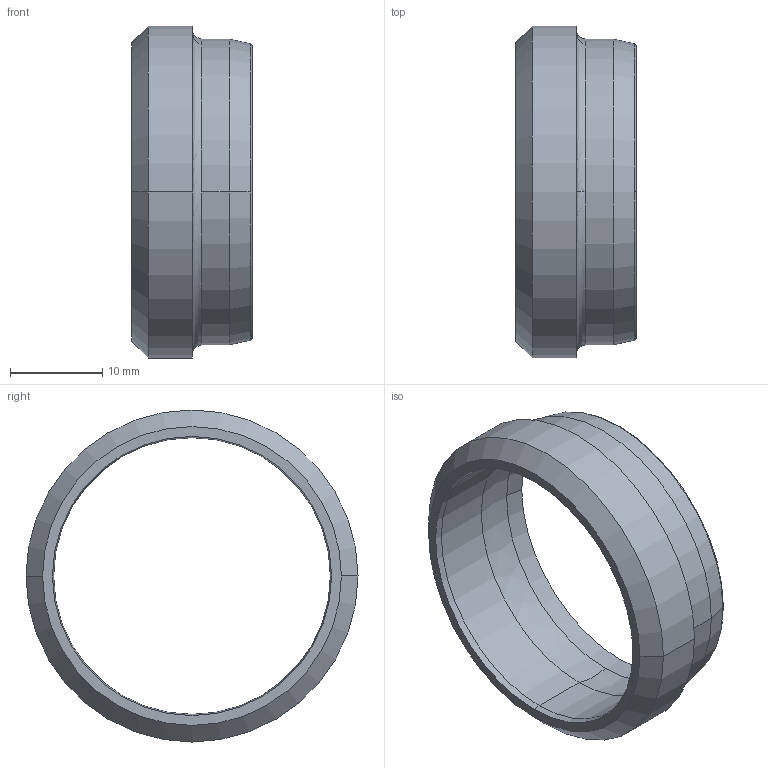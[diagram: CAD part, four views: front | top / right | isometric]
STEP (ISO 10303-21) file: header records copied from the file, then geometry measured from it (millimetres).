
FILE_DESCRIPTION((''),'2;1');
FILE_NAME('100122.stp','2006-03-06T15:05:50',('Dario Falcomer'),('CAST S.p.A.'),'AutoCAD STEP 2000i','AutoCAD 2000i',', , ');
FILE_SCHEMA(('CONFIG_CONTROL_DESIGN'));
Length unit declared in the file: millimetre
Products named in the file (2): 100122.0; 1001ESTERNO#0
Assembly tree (1 placements, depth 2):
  100122.0
    1001ESTERNO#0
Bounding box: 13.07 x 36 x 36 mm (x, y, z)
Volume: 2691.2 mm3; surface area: 3085.9 mm2
Topology: 1 solids, 1 shells, 28 faces, 67 edges, 43 vertices
Faces by surface type: bspline 8, cone 8, cylinder 6, plane 4, torus 2
Entity records: 1349 total; most frequent: CARTESIAN_POINT 564, DIRECTION 164, ORIENTED_EDGE 134, AXIS2_PLACEMENT_3D 75, EDGE_CURVE 67, CIRCLE 53, VERTEX_POINT 43, EDGE_LOOP 32
